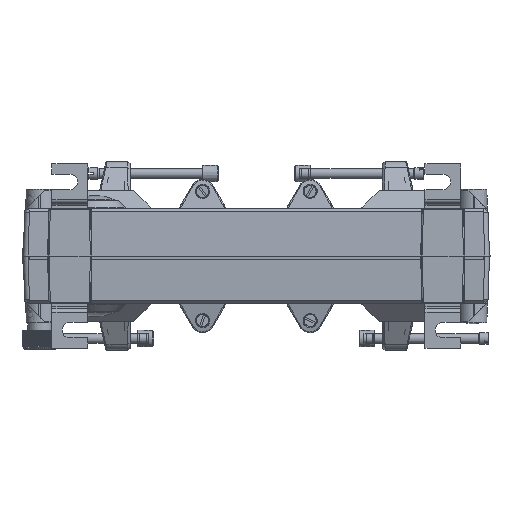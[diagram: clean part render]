
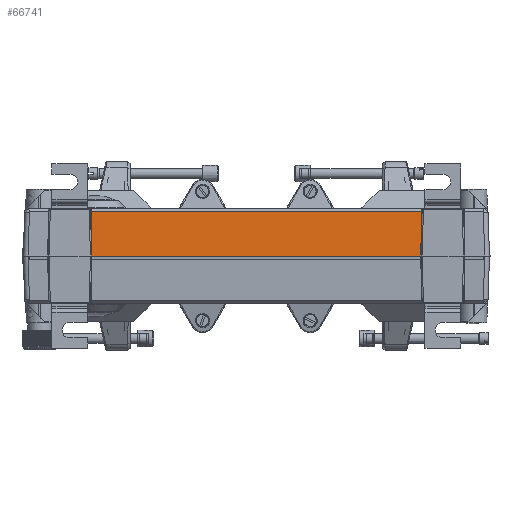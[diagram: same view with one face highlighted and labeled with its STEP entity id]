
A CAD part, front view. The second image highlights one B-rep face of the part: STEP entity #66741.
In plain terms, the highlighted planar face has unit normal (0, -0.999, 0.035).
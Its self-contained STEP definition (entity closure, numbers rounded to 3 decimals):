
#3565=PLANE('',#71517);
#6999=FACE_OUTER_BOUND('',#10994,.T.);
#10994=EDGE_LOOP('',(#50605,#50606,#50607,#50608));
#15466=LINE('',#103924,#21833);
#16031=LINE('',#106923,#22398);
#16032=LINE('',#106925,#22399);
#16033=LINE('',#106926,#22400);
#21833=VECTOR('',#80511,1000.);
#22398=VECTOR('',#81372,1000.);
#22399=VECTOR('',#81373,1000.);
#22400=VECTOR('',#81374,1000.);
#30367=VERTEX_POINT('',#103920);
#30369=VERTEX_POINT('',#103923);
#31055=VERTEX_POINT('',#106922);
#31056=VERTEX_POINT('',#106924);
#37587=EDGE_CURVE('',#30369,#30367,#15466,.T.);
#38345=EDGE_CURVE('',#31055,#30367,#16031,.T.);
#38346=EDGE_CURVE('',#31055,#31056,#16032,.T.);
#38347=EDGE_CURVE('',#31056,#30369,#16033,.T.);
#50605=ORIENTED_EDGE('',*,*,#37587,.T.);
#50606=ORIENTED_EDGE('',*,*,#38345,.F.);
#50607=ORIENTED_EDGE('',*,*,#38346,.T.);
#50608=ORIENTED_EDGE('',*,*,#38347,.T.);
#66741=ADVANCED_FACE('',(#6999),#3565,.T.);
#71517=AXIS2_PLACEMENT_3D('',#106921,#81370,#81371);
#80511=DIRECTION('',(1.,0.,0.));
#81370=DIRECTION('center_axis',(0.,-0.999,
0.035));
#81371=DIRECTION('ref_axis',(0.,-0.035,-0.999));
#81372=DIRECTION('',(-0.016,-0.035,-0.999));
#81373=DIRECTION('',(-1.,0.,0.));
#81374=DIRECTION('',(0.016,-0.035,-0.999));
#103920=CARTESIAN_POINT('',(68.76,-15.45,0.));
#103923=CARTESIAN_POINT('',(-68.76,-15.45,0.));
#103924=CARTESIAN_POINT('',(97.5,-15.45,0.));
#106921=CARTESIAN_POINT('Origin',(97.5,-15.45,0.));
#106922=CARTESIAN_POINT('',(69.055,-14.804,18.501));
#106923=CARTESIAN_POINT('',(68.77,-15.429,0.601));
#106924=CARTESIAN_POINT('',(-69.055,-14.804,18.501));
#106925=CARTESIAN_POINT('',(-95.359,-14.804,18.501));
#106926=CARTESIAN_POINT('',(-68.77,-15.429,0.601));
